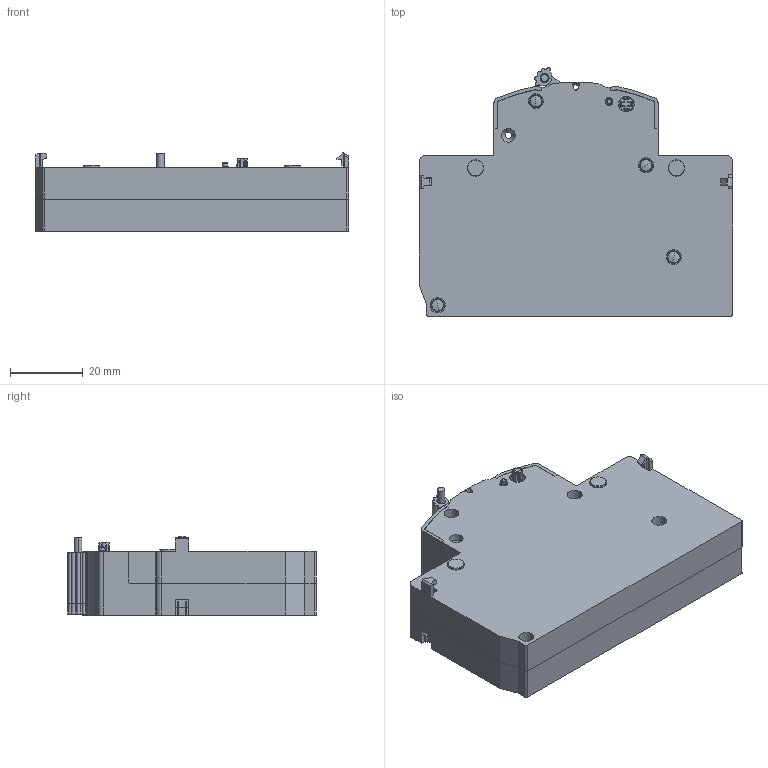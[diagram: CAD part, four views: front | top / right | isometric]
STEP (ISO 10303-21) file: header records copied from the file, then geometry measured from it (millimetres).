
FILE_DESCRIPTION (( 'STEP AP214' ), '1' );
FILE_NAME ('SV-LP_SP-LP.step', '2011-08-23T07:34:58', ( 'Radek Veselý' ), ( 'Siemens and Partners' ), 'SwSTEP 2.0', 'SolidWorks 2006303', '' );
FILE_SCHEMA (( 'AUTOMOTIVE_DESIGN' ));
Length unit declared in the file: millimetre
Products named in the file (1): SV-LP_SP-LP
Bounding box: 86 x 68.19 x 21.45 mm (x, y, z)
Volume: 26001 mm3; surface area: 39683.9 mm2
Topology: 15 solids, 15 shells, 1980 faces, 5222 edges, 3308 vertices
Faces by surface type: plane 1027, cylinder 599, cone 154, torus 140, sphere 44, bspline 16
Entity records: 83550 total; most frequent: CARTESIAN_POINT 11623, DIRECTION 10763, ORIENTED_EDGE 10412, EDGE_CURVE 5206, AXIS2_PLACEMENT_3D 3778, VERTEX_POINT 3308, VECTOR 3207, LINE 3207
